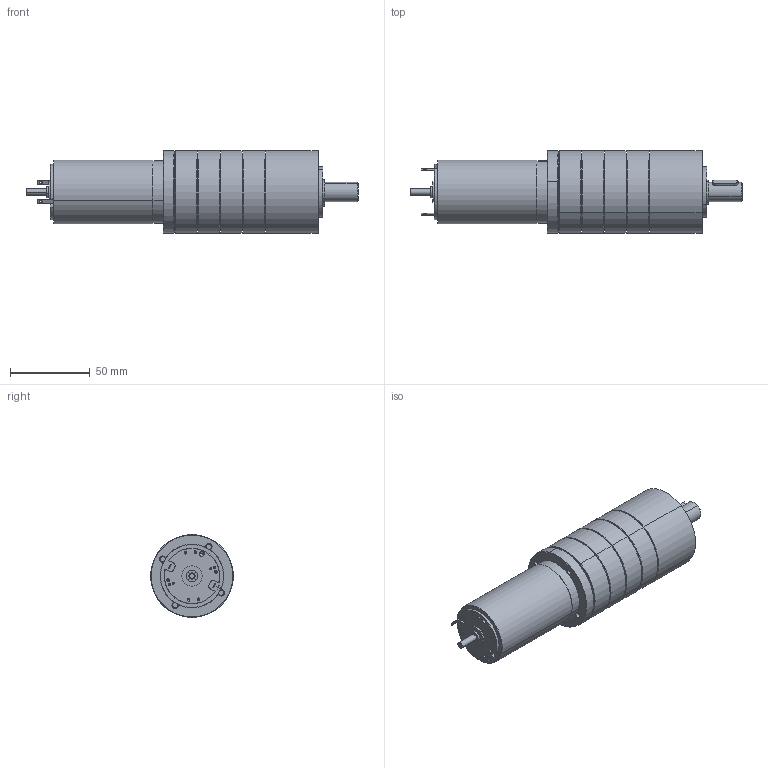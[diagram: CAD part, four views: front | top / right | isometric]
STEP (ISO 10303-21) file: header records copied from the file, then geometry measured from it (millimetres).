
FILE_DESCRIPTION (( 'STEP AP214' ), '1' );
FILE_NAME ('RE40_+_PM52-4etages.STEP', '2014-03-03T08:13:51', ( '' ), ( '' ), 'SwSTEP 2.0', 'SolidWorks 2013', '' );
FILE_SCHEMA (( 'AUTOMOTIVE_DESIGN' ));
Length unit declared in the file: millimetre
Products named in the file (16): MOTORFLANSCH_1240398; PM52 pour RE40 - 1249626; SCHRAUBE_1241978_6; 8006230_ZAHNKRANZ_Z46_2; 8006405_DICHTRING_2; 4X4X16_D6885A_2; D471_12X1_5_2; 8102168_ABTRIEB_LK1_KPL_2; GK2152_POS31_2_LAGERBOLZEN_2; 8101171_ABTRIEB_ROHTEIL_AF0_2; DIN998_PS_12X18X1_2; D625-6001-2RS_2; 8006231_LAGERFLANSCH_2; RE40G_Part; RE40_+_PM52-4etages; D912_M4X10_1
Assembly tree (31 placements, depth 4):
  RE40_+_PM52-4etages
    RE40G_Part
    PM52 pour RE40 - 1249626
      8006231_LAGERFLANSCH_2
      D625-6001-2RS_2  x2
      DIN998_PS_12X18X1_2  x2
      8102168_ABTRIEB_LK1_KPL_2
        8101171_ABTRIEB_ROHTEIL_AF0_2
        GK2152_POS31_2_LAGERBOLZEN_2  x3
      D471_12X1_5_2
      4X4X16_D6885A_2
      8006405_DICHTRING_2  x2
      8006230_ZAHNKRANZ_Z46_2
      SCHRAUBE_1241978_6  x4
    MOTORFLANSCH_1240398
    D912_M4X10_1  x3
    8006405_DICHTRING_2  x3
    8006230_ZAHNKRANZ_Z46_2  x3
Bounding box: 208.65 x 52 x 52 mm (x, y, z)
Volume: 156775.3 mm3; surface area: 101325.7 mm2
Topology: 23 solids, 51 shells, 1556 faces, 4137 edges, 2690 vertices
Faces by surface type: cylinder 764, plane 588, cone 150, bspline 54
Entity records: 24133 total; most frequent: CARTESIAN_POINT 4842, DIRECTION 3899, ORIENTED_EDGE 3420, EDGE_CURVE 1732, AXIS2_PLACEMENT_3D 1505, VERTEX_POINT 1128, VECTOR 889, LINE 889
